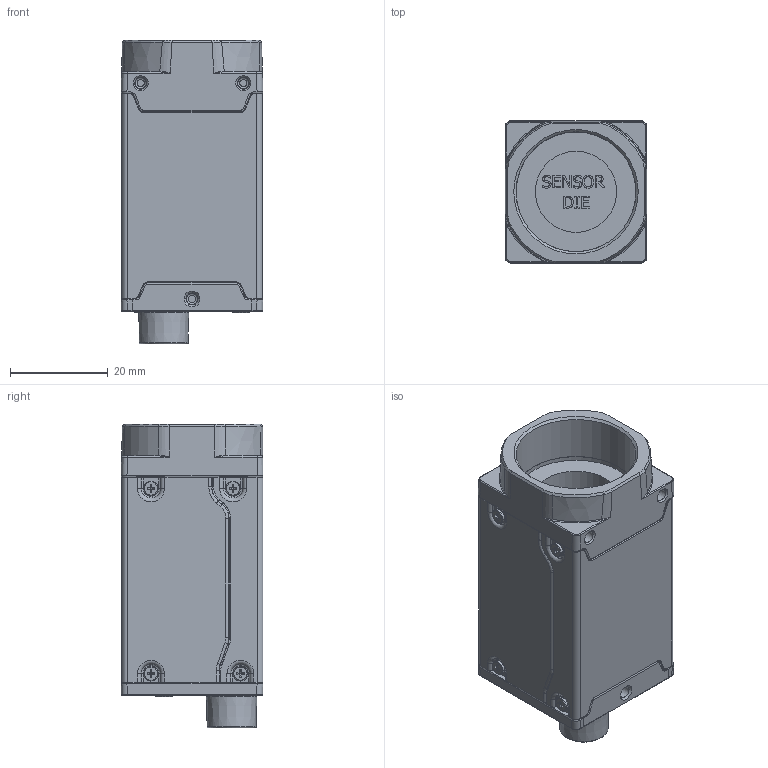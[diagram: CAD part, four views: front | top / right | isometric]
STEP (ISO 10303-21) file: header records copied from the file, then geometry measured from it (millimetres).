
FILE_DESCRIPTION(/* description */ (''),/* implementation_level */ '2;1');
FILE_NAME(/* name */ 'C:\Users\Jobserver\Workspace\Designs\Storage\2019\05\027652.stp',/* time_stamp */ '2019-11-13T12:17:35+01:00',/* author */ ('skress'),/* organization */ (''),/* preprocessor_version */ 'ST-DEVELOPER v16.13',/* originating_system */ 'Autodesk Inventor 2018',/* authorisation */ '');
FILE_SCHEMA (('CONFIG_CONTROL_DESIGN'));
Products named in the file (1): 027652
Bounding box: 29 x 29 x 62.17 mm (x, y, z)
Volume: 37255.7 mm3; surface area: 17146.5 mm2
Topology: 1 solids, 28 shells, 2808 faces, 8131 edges, 5435 vertices
Faces by surface type: plane 1443, bspline 505, cylinder 447, cone 245, torus 158, sphere 10
Full cylindrical faces by diameter (mm): 0.95 x6, 1.2 x2, 1.3 x1, 1.39 x8, 1.4 x6, 1.567 x2, 1.85 x8, 2.459 x3, 3 x8, 5.6 x1, 5.8 x1, 6.917 x1, 7 x1, 7.6 x1, 16.6 x1, 24.45 x1, 24.536 x1
Entity records: 214206 total; most frequent: CARTESIAN_POINT 142384, ORIENTED_EDGE 15654, DIRECTION 12810, EDGE_CURVE 7741, VERTEX_POINT 5267, LINE 4290, VECTOR 4290, AXIS2_PLACEMENT_3D 4260
